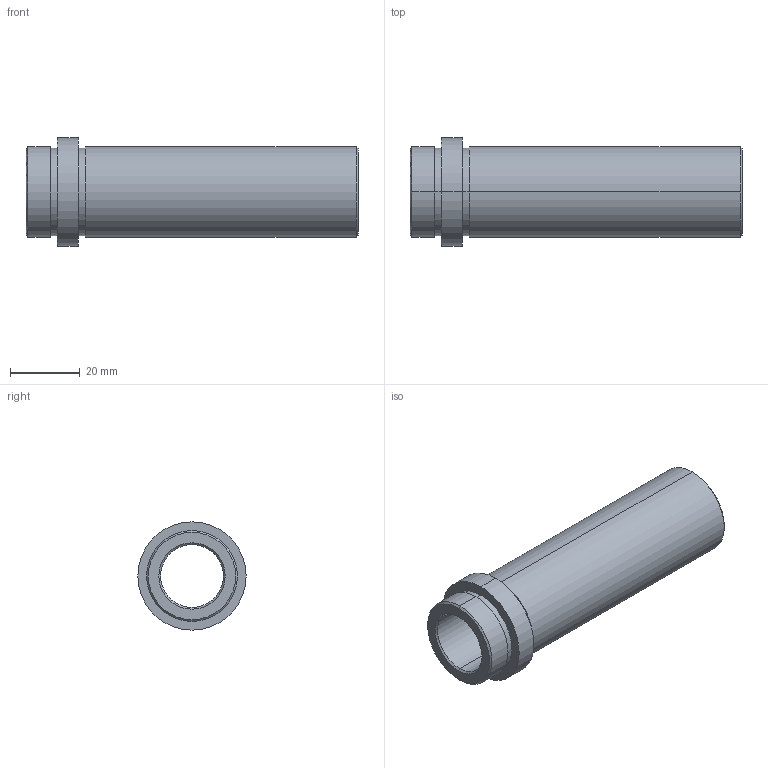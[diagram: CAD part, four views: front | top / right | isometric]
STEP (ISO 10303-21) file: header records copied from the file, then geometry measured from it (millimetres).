
FILE_DESCRIPTION( ( 'STEP AP203' ), '1' );
FILE_NAME( 'D:/Delta 3 D/D21/D21 - 18x86.step', '2002-12-31T22:34:40', ( ' ' ), ( ' ' ), 'XStep 1.0', ' ', ' ' );
FILE_SCHEMA( ( 'CONFIG_CONTROL_DESIGN' ) );
Length unit declared in the file: metre
Products named in the file (1): 1
Bounding box: 95 x 31 x 31 mm (x, y, z)
Volume: 27412 mm3; surface area: 14293.4 mm2
Topology: 1 solids, 1 shells, 26 faces, 52 edges, 32 vertices
Faces by surface type: revolution 20, bspline 6
Entity records: 773 total; most frequent: CARTESIAN_POINT 169, DIRECTION 106, ORIENTED_EDGE 104, EDGE_CURVE 52, AXIS2_PLACEMENT_3D 33, EDGE_LOOP 32, VERTEX_POINT 32, CIRCLE 32
